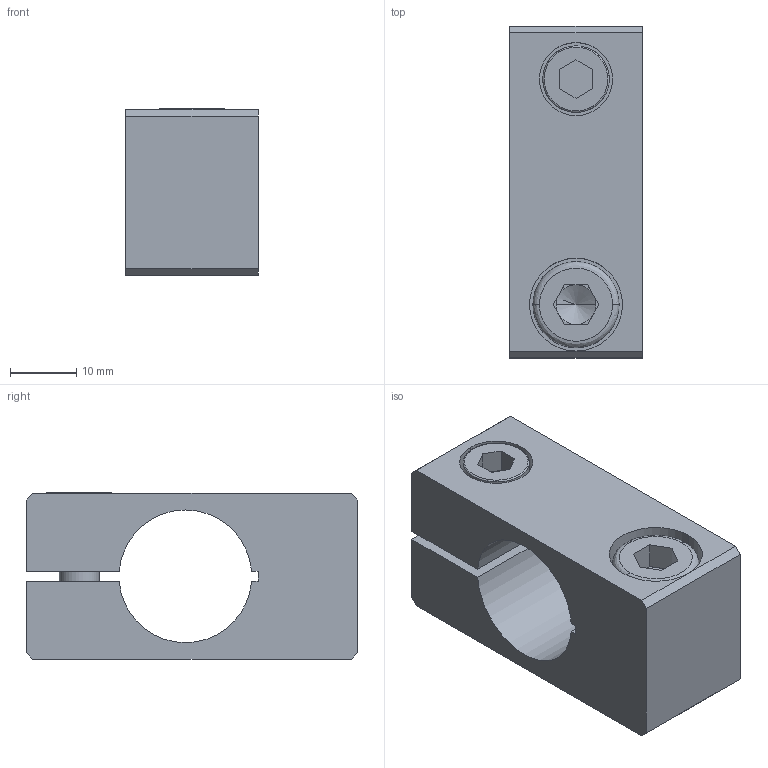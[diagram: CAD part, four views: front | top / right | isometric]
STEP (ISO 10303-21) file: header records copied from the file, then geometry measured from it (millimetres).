
FILE_DESCRIPTION (( 'STEP AP214' ), '1' );
FILE_NAME ('SMBH1-20M8.STEP', '2019-11-07T07:21:09', ( '微软用户' ), ( '微软中国' ), 'SwSTEP 2.0', 'SolidWorks 2016', '' );
FILE_SCHEMA (( 'AUTOMOTIVE_DESIGN' ));
Length unit declared in the file: millimetre
Products named in the file (1): SMBH1-20M8
Bounding box: 20 x 50 x 25.1 mm (x, y, z)
Volume: 17256.4 mm3; surface area: 9626.1 mm2
Topology: 4 solids, 4 shells, 223 faces, 625 edges, 411 vertices
Faces by surface type: plane 187, cylinder 24, cone 8, bspline 4
Entity records: 9767 total; most frequent: CARTESIAN_POINT 1340, DIRECTION 1263, ORIENTED_EDGE 1244, EDGE_CURVE 622, AXIS2_PLACEMENT_3D 429, VERTEX_POINT 410, VECTOR 405, LINE 405
